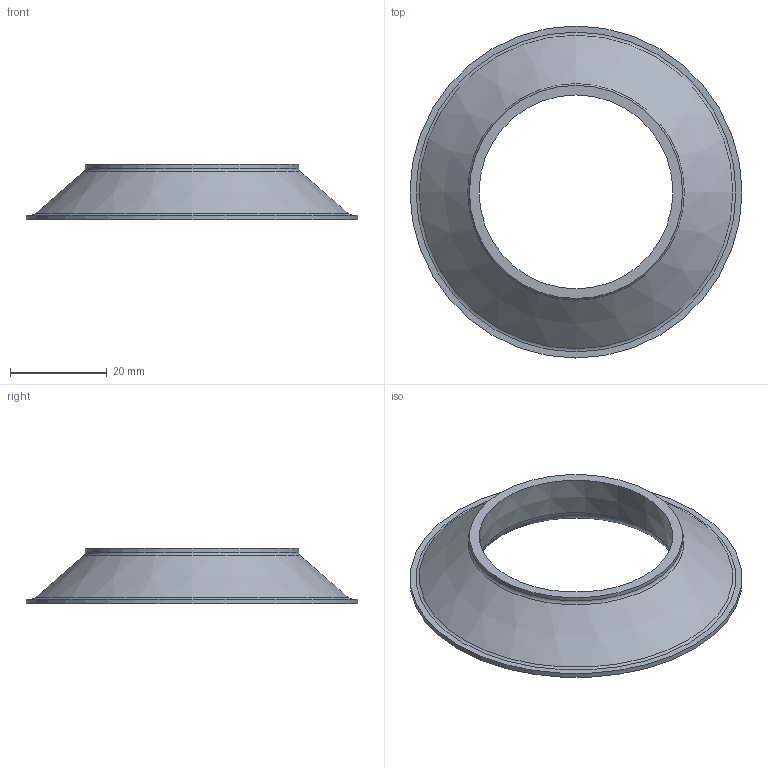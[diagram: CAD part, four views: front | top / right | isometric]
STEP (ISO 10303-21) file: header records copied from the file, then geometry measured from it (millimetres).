
FILE_DESCRIPTION( ('This file contains a STEP AP42 implementation' ,'as created by ZW3D STEP Interface translator.') ,'2;1' );
FILE_NAME( 'KM-40.stp' ,'26 518.133829', (''), ('ZWCAD Software Co.'), 'Version 1.0', 'ZW3D to STEP translator', '' );
FILE_SCHEMA(('AP242_MANAGED_MODEL_BASED_3D_ENGINEERING_MIM_LF { 1 0 10303 442 1 1 4 }'));
Length unit declared in the file: millimetre
Products named in the file (1): 0
Bounding box: 68.5 x 68.5 x 11.5 mm (x, y, z)
Volume: 12141.1 mm3; surface area: 7049.5 mm2
Topology: 1 solids, 1 shells, 10 faces, 17 edges, 10 vertices
Faces by surface type: plane 3, torus 3, cylinder 2, cone 2
Full cylindrical faces by diameter (mm): 44 x1, 68.5 x1
Entity records: 276 total; most frequent: DIRECTION 52, CARTESIAN_POINT 38, ORIENTED_EDGE 34, AXIS2_PLACEMENT_3D 24, EDGE_CURVE 17, CIRCLE 13, EDGE_LOOP 13, VERTEX_POINT 10
